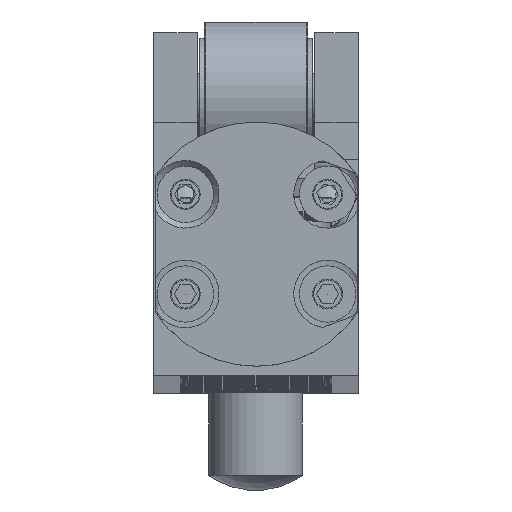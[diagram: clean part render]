
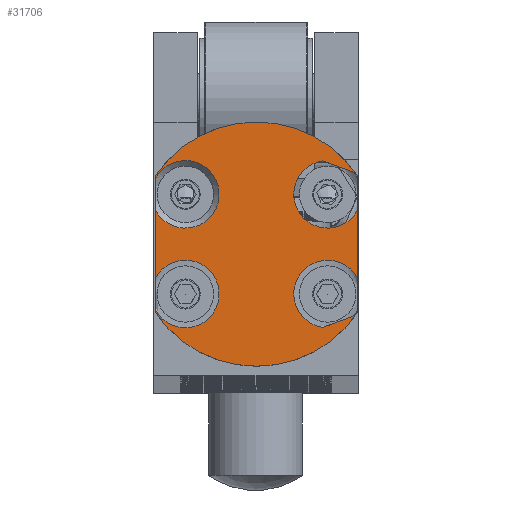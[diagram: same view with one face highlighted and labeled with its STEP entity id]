
A CAD part, top view. The second image highlights one B-rep face of the part: STEP entity #31706.
In plain terms, the highlighted planar face has unit normal (0, 0, 1).
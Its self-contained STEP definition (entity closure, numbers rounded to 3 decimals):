
#2161=LINE('',#58860,#3279);
#2162=LINE('',#58863,#3280);
#2163=LINE('',#58867,#3281);
#2164=LINE('',#58871,#3282);
#2165=LINE('',#58875,#3283);
#2166=LINE('',#58879,#3284);
#2167=LINE('',#58883,#3285);
#2168=LINE('',#58886,#3286);
#3279=VECTOR('',#45562,10.);
#3280=VECTOR('',#45565,10.);
#3281=VECTOR('',#45568,10.);
#3282=VECTOR('',#45571,10.);
#3283=VECTOR('',#45574,10.);
#3284=VECTOR('',#45577,10.);
#3285=VECTOR('',#45580,10.);
#3286=VECTOR('',#45583,10.);
#5633=FACE_OUTER_BOUND('',#7558,.T.);
#7558=EDGE_LOOP('',(#26810,#26811,#26812,#26813,#26814,#26815,#26816,#26817,
#26818,#26819,#26820,#26821,#26822,#26823,#26824,#26825));
#10527=CIRCLE('',#35968,3.6);
#10530=CIRCLE('',#35971,3.6);
#10531=CIRCLE('',#35975,3.6);
#10532=CIRCLE('',#35976,3.6);
#10533=CIRCLE('',#35977,13.);
#10534=CIRCLE('',#35978,3.6);
#10535=CIRCLE('',#35979,3.6);
#10536=CIRCLE('',#35980,13.);
#13810=VERTEX_POINT('',#58836);
#13811=VERTEX_POINT('',#58837);
#13812=VERTEX_POINT('',#58841);
#13816=VERTEX_POINT('',#58852);
#13817=VERTEX_POINT('',#58862);
#13818=VERTEX_POINT('',#58864);
#13819=VERTEX_POINT('',#58866);
#13820=VERTEX_POINT('',#58868);
#13821=VERTEX_POINT('',#58870);
#13822=VERTEX_POINT('',#58872);
#13823=VERTEX_POINT('',#58874);
#13824=VERTEX_POINT('',#58876);
#13825=VERTEX_POINT('',#58878);
#13826=VERTEX_POINT('',#58880);
#13827=VERTEX_POINT('',#58882);
#13828=VERTEX_POINT('',#58884);
#18279=EDGE_CURVE('',#13812,#13810,#10527,.T.);
#18285=EDGE_CURVE('',#13811,#13816,#10530,.T.);
#18287=EDGE_CURVE('',#13816,#13812,#2161,.T.);
#18288=EDGE_CURVE('',#13810,#13817,#2162,.T.);
#18289=EDGE_CURVE('',#13817,#13818,#10531,.T.);
#18290=EDGE_CURVE('',#13818,#13819,#2163,.T.);
#18291=EDGE_CURVE('',#13819,#13820,#10532,.T.);
#18292=EDGE_CURVE('',#13820,#13821,#2164,.T.);
#18293=EDGE_CURVE('',#13822,#13821,#10533,.T.);
#18294=EDGE_CURVE('',#13822,#13823,#2165,.T.);
#18295=EDGE_CURVE('',#13823,#13824,#10534,.T.);
#18296=EDGE_CURVE('',#13824,#13825,#2166,.T.);
#18297=EDGE_CURVE('',#13825,#13826,#10535,.T.);
#18298=EDGE_CURVE('',#13826,#13827,#2167,.T.);
#18299=EDGE_CURVE('',#13828,#13827,#10536,.T.);
#18300=EDGE_CURVE('',#13828,#13811,#2168,.T.);
#26810=ORIENTED_EDGE('',*,*,#18285,.T.);
#26811=ORIENTED_EDGE('',*,*,#18287,.T.);
#26812=ORIENTED_EDGE('',*,*,#18279,.T.);
#26813=ORIENTED_EDGE('',*,*,#18288,.T.);
#26814=ORIENTED_EDGE('',*,*,#18289,.T.);
#26815=ORIENTED_EDGE('',*,*,#18290,.T.);
#26816=ORIENTED_EDGE('',*,*,#18291,.T.);
#26817=ORIENTED_EDGE('',*,*,#18292,.T.);
#26818=ORIENTED_EDGE('',*,*,#18293,.F.);
#26819=ORIENTED_EDGE('',*,*,#18294,.T.);
#26820=ORIENTED_EDGE('',*,*,#18295,.T.);
#26821=ORIENTED_EDGE('',*,*,#18296,.T.);
#26822=ORIENTED_EDGE('',*,*,#18297,.T.);
#26823=ORIENTED_EDGE('',*,*,#18298,.T.);
#26824=ORIENTED_EDGE('',*,*,#18299,.F.);
#26825=ORIENTED_EDGE('',*,*,#18300,.T.);
#28873=PLANE('',#35974);
#31706=ADVANCED_FACE('',(#5633),#28873,.T.);
#35968=AXIS2_PLACEMENT_3D('',#58842,#45548,#45549);
#35971=AXIS2_PLACEMENT_3D('',#58856,#45555,#45556);
#35974=AXIS2_PLACEMENT_3D('',#58861,#45563,#45564);
#35975=AXIS2_PLACEMENT_3D('',#58865,#45566,#45567);
#35976=AXIS2_PLACEMENT_3D('',#58869,#45569,#45570);
#35977=AXIS2_PLACEMENT_3D('',#58873,#45572,#45573);
#35978=AXIS2_PLACEMENT_3D('',#58877,#45575,#45576);
#35979=AXIS2_PLACEMENT_3D('',#58881,#45578,#45579);
#35980=AXIS2_PLACEMENT_3D('',#58885,#45581,#45582);
#45548=DIRECTION('center_axis',(0.,0.,
-1.));
#45549=DIRECTION('ref_axis',(-0.342,0.94,0.));
#45555=DIRECTION('center_axis',(0.,0.,
-1.));
#45556=DIRECTION('ref_axis',(-0.342,0.94,0.));
#45562=DIRECTION('',(-0.94,-0.342,0.));
#45563=DIRECTION('center_axis',(0.,0.,
1.));
#45564=DIRECTION('ref_axis',(1.,0.,0.));
#45565=DIRECTION('',(0.,1.,0.));
#45566=DIRECTION('center_axis',(0.,0.,
-1.));
#45567=DIRECTION('ref_axis',(-0.342,-0.94,0.));
#45568=DIRECTION('',(0.94,-0.342,0.));
#45569=DIRECTION('center_axis',(0.,0.,
-1.));
#45570=DIRECTION('ref_axis',(-0.342,-0.94,0.));
#45571=DIRECTION('',(0.,1.,0.));
#45572=DIRECTION('center_axis',(0.,0.,
-1.));
#45573=DIRECTION('ref_axis',(0.,1.,0.));
#45574=DIRECTION('',(0.,-1.,0.));
#45575=DIRECTION('center_axis',(0.,0.,
-1.));
#45576=DIRECTION('ref_axis',(1.,0.,0.));
#45577=DIRECTION('',(0.,-1.,0.));
#45578=DIRECTION('center_axis',(0.,0.,
-1.));
#45579=DIRECTION('ref_axis',(1.,0.,0.));
#45580=DIRECTION('',(0.,-1.,0.));
#45581=DIRECTION('center_axis',(0.,0.,
-1.));
#45582=DIRECTION('ref_axis',(0.,1.,0.));
#45583=DIRECTION('',(0.,1.,0.));
#58836=CARTESIAN_POINT('',(10.8,-7.855,546.));
#58837=CARTESIAN_POINT('',(10.8,-11.256,546.));
#58841=CARTESIAN_POINT('',(7.114,-13.119,546.));
#58842=CARTESIAN_POINT('Origin',(7.627,-9.556,546.));
#58852=CARTESIAN_POINT('',(10.311,-11.955,546.));
#58856=CARTESIAN_POINT('Origin',(7.627,-9.556,546.));
#58860=CARTESIAN_POINT('',(8.206,-12.721,546.));
#58861=CARTESIAN_POINT('Origin',(0.05,2.25,546.));
#58862=CARTESIAN_POINT('',(10.8,-0.645,546.));
#58863=CARTESIAN_POINT('',(10.8,-4.655,546.));
#58864=CARTESIAN_POINT('',(7.114,4.619,546.));
#58865=CARTESIAN_POINT('Origin',(7.627,1.056,546.));
#58866=CARTESIAN_POINT('',(10.311,3.455,546.));
#58867=CARTESIAN_POINT('',(6.117,4.982,546.));
#58868=CARTESIAN_POINT('',(10.8,2.756,546.));
#58869=CARTESIAN_POINT('Origin',(7.627,1.056,546.));
#58870=CARTESIAN_POINT('',(10.8,3.06,546.));
#58871=CARTESIAN_POINT('',(10.8,-4.655,546.));
#58872=CARTESIAN_POINT('',(-10.7,3.06,546.));
#58873=CARTESIAN_POINT('Origin',(0.05,-4.25,546.));
#58874=CARTESIAN_POINT('',(-10.7,2.756,546.));
#58875=CARTESIAN_POINT('',(-10.7,2.655,546.));
#58876=CARTESIAN_POINT('',(-10.7,-0.645,546.));
#58877=CARTESIAN_POINT('Origin',(-7.527,1.056,546.));
#58878=CARTESIAN_POINT('',(-10.7,-7.855,546.));
#58879=CARTESIAN_POINT('',(-10.7,2.655,546.));
#58880=CARTESIAN_POINT('',(-10.7,-11.256,546.));
#58881=CARTESIAN_POINT('Origin',(-7.527,-9.556,546.));
#58882=CARTESIAN_POINT('',(-10.7,-11.56,546.));
#58883=CARTESIAN_POINT('',(-10.7,2.655,546.));
#58884=CARTESIAN_POINT('',(10.8,-11.56,546.));
#58885=CARTESIAN_POINT('Origin',(0.05,-4.25,546.));
#58886=CARTESIAN_POINT('',(10.8,-4.655,546.));
